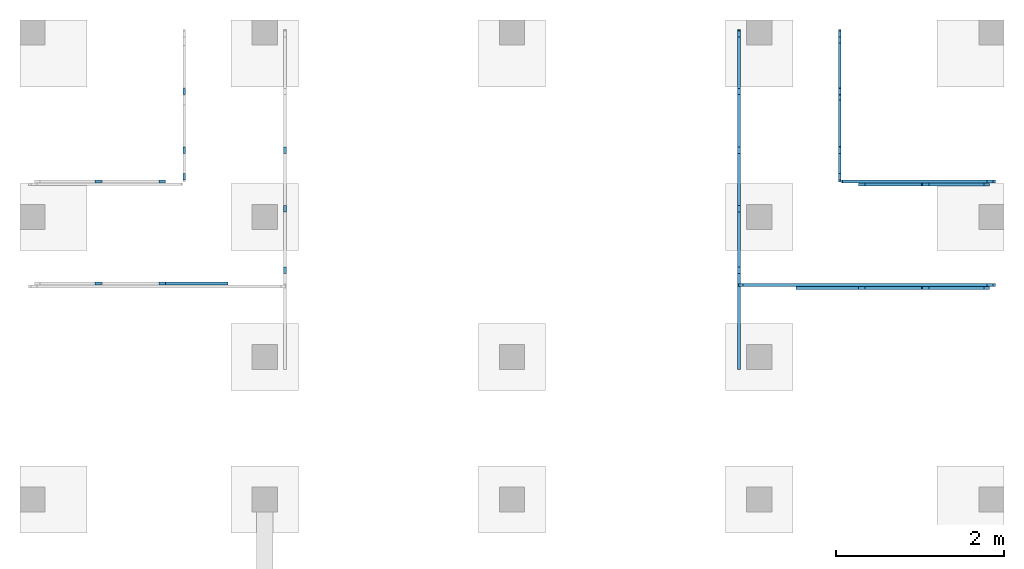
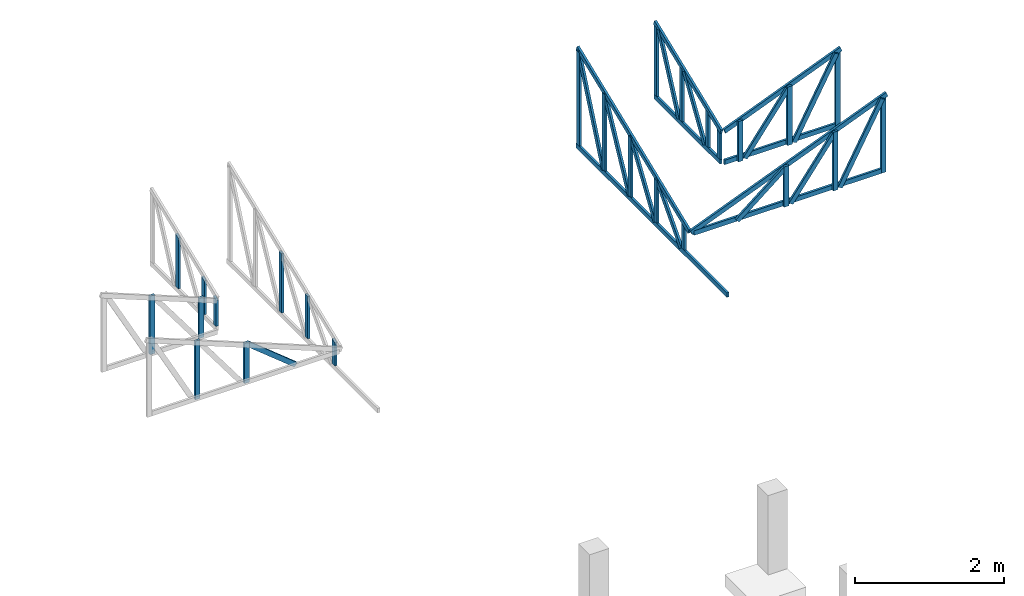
# One storey, part 2 of 2: 45 members, 8 elements without a shape of their own.
"""IFC4X3_ADD2 building model written with IfcOpenShell, lengths in millimetres."""

from ifc_helpers import new_model, entity, si_unit, converted_unit, frame, origin_with_axes, origin_2d_with_axis, place, context, subcontext, project, spatial, rectangle, extrude, clip, halfspace, material, material_profile, profile_set, profile_usage, type_object, element, aggregate, save


model = new_model("IFC4X3_ADD2")

# Units and contexts
model_context = context("Model", 3, precision=1e-05, world=origin_with_axes())
plan_context = context("Plan", 2, precision=1e-05, world=origin_2d_with_axis())
body_context = subcontext(model_context, "Body", "Model", "MODEL_VIEW")
ifc_project = project(units=[si_unit("VOLUMEUNIT", "CUBIC_METRE"), si_unit("LENGTHUNIT", "METRE", prefix="MILLI"), converted_unit("PLANEANGLEUNIT", "degree", entity("IfcReal", 0.0174532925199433), si_unit("PLANEANGLEUNIT", "RADIAN"), dimensions=[0, 0, 0, 0, 0, 0, 0]), si_unit("AREAUNIT", "SQUARE_METRE")], contexts=[model_context, plan_context])

# Site, building, storey
site_placement = place(None, origin_with_axes())
site = spatial("IfcSite", under=ifc_project, at=site_placement, Name="My Site")
building_placement = place(site_placement, origin_with_axes())
building = spatial("IfcBuilding", under=site, at=building_placement, Name="My Building")
storey_placement = place(building_placement, origin_with_axes())
storey = spatial("IfcBuildingStorey", under=building, at=storey_placement, Name="Pondasi")

# Assembly, members
assembly_1_placement = place(storey_placement, frame((3027.53567695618, 5188.17663192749, 6674.02648925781), z_axis=(0.0, 0.0, 1.0), x_axis=(1.0, 0.0, 0.0)))
assembly_1 = element("IfcElementAssembly", 1, at=assembly_1_placement, inside=storey, Name="KK4")
ifc_material = material(Name="Galvanis")
ifc_material_profile = material_profile(ifc_material, rectangle(XDim=35.0, YDim=75.0))
ifc_profile_set = profile_set([ifc_material_profile])
ifc_profile_usage_1 = profile_usage(ifc_profile_set, cardinal=2)
member_type = type_object("IfcMemberType", Name="C75", PredefinedType="MEMBER", material=ifc_profile_set)
member_1_placement = place(assembly_1_placement, frame((-17.5356864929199, -983.174800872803, 8.18347930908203), z_axis=(0.0, 0.0, 1.0), x_axis=(-0.999999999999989, -1.50995802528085e-07, 0.0)))
member_1 = element("IfcMember", 2, at=member_1_placement, type_object=member_type, material=ifc_profile_usage_1, Name="Member.061", context=body_context, shape_type="SweptSolid", body=[
    extrude(rectangle(XDim=35.0, YDim=75.0), frame((0.0, 37.5, 0.0), z_axis=(0.0, 0.0, 1.0), x_axis=(1.0, 0.0, 0.0)), (0.0, 0.0, 1.0), 975.92401613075),
])
ifc_profile_usage_2 = profile_usage(ifc_profile_set, cardinal=2)
member_2_placement = place(assembly_1_placement, frame((-17.5356864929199, -1683.17937850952, 8.18347930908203), z_axis=(0.0, 0.0, 1.0), x_axis=(-0.999999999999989, -1.50995802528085e-07, 0.0)))
member_2 = element("IfcMember", 3, at=member_2_placement, type_object=member_type, material=ifc_profile_usage_2, Name="Member.058", context=body_context, shape_type="SweptSolid", body=[
    extrude(rectangle(XDim=35.0, YDim=75.0), frame((0.0, 37.5, 0.0), z_axis=(0.0, 0.0, 1.0), x_axis=(1.0, 0.0, 0.0)), (0.0, 0.0, 1.0), 696.690084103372),
])
ifc_profile_usage_3 = profile_usage(ifc_profile_set, cardinal=2)
member_3_placement = place(assembly_1_placement, frame((-17.5356864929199, -2416.53060913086, 8.18395614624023), z_axis=(0.0, 0.0, 1.0), x_axis=(-0.999999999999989, -1.50995802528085e-07, 0.0)))
member_3 = element("IfcMember", 4, at=member_3_placement, type_object=member_type, material=ifc_profile_usage_3, Name="Member.058", context=body_context, shape_type="Clipping", body=[
    clip(extrude(rectangle(XDim=35.0, YDim=75.0), frame((0.0, 37.5, 0.0), z_axis=(0.0, 0.0, 1.0), x_axis=(1.0, 0.0, 0.0)), (0.0, 0.0, 1.0), 484.720706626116), halfspace(frame((-0.000369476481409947, -2833.23574066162, 1534.339427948), z_axis=(5.5707754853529e-08, 0.368935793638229, 0.929454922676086), x_axis=(0.999999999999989, -1.50995798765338e-07, 0.0)), False)),
])
aggregate(assembly_1, [member_1, member_2, member_3])

assembly_2_placement = place(storey_placement, frame((1827.50594615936, 5455.30414581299, 7060.82105636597), z_axis=(0.0, 0.0, 1.0), x_axis=(1.0, 0.0, 0.0)))
assembly_2 = element("IfcElementAssembly", 5, at=assembly_2_placement, inside=storey, Name="KK7")
ifc_profile_usage_4 = profile_usage(ifc_profile_set, cardinal=2)
member_4_placement = place(assembly_2_placement, frame((-17.5060033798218, -550.303936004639, 14.1787528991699), z_axis=(-4.35708814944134e-13, 4.06124991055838e-06, 0.999999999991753), x_axis=(-0.999999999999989, -1.50995802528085e-07, 1.77522872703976e-13)))
member_4 = element("IfcMember", 6, at=member_4_placement, type_object=member_type, material=ifc_profile_usage_4, Name="Member.065", context=body_context, shape_type="Clipping", body=[
    clip(extrude(rectangle(XDim=35.0, YDim=75.0), frame((0.0, 37.5, 0.0), z_axis=(0.0, 0.0, 1.0), x_axis=(1.0, 0.0, 0.0)), (0.0, 0.0, 1.0), 938.741688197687), halfspace(frame((-0.000131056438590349, -699.877023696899, 1141.55280590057), z_axis=(5.57079182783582e-08, 0.368939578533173, 0.929453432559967), x_axis=(0.999999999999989, -1.50994692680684e-07, 0.0)), False)),
])
ifc_profile_usage_5 = profile_usage(ifc_profile_set, cardinal=2)
member_5_placement = place(assembly_2_placement, frame((-17.5060033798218, -1250.3023147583, 14.1787528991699), z_axis=(0.0, 0.0, 1.0), x_axis=(-0.999999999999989, -1.50995802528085e-07, 0.0)))
member_5 = element("IfcMember", 7, at=member_5_placement, type_object=member_type, material=ifc_profile_usage_5, Name="Member.061", context=body_context, shape_type="Clipping", body=[
    clip(extrude(rectangle(XDim=35.0, YDim=75.0), frame((0.0, 37.5, 0.0), z_axis=(0.0, 0.0, 1.0), x_axis=(1.0, 0.0, 0.0)), (0.0, 0.0, 1.0), 660.884861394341), halfspace(frame((-0.000250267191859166, -1399.88017082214, 1141.55006408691), z_axis=(5.5707754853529e-08, 0.368935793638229, 0.929454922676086), x_axis=(0.999999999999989, -1.50995798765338e-07, 0.0)), False)),
])
ifc_profile_usage_6 = profile_usage(ifc_profile_set, cardinal=2)
member_6_placement = place(assembly_2_placement, frame((-17.5060033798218, -1568.13335418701, 14.1792297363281), z_axis=(0.0, 0.0, 1.0), x_axis=(-0.999999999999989, -1.50995802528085e-07, 0.0)))
member_6 = element("IfcMember", 8, at=member_6_placement, type_object=member_type, material=ifc_profile_usage_6, Name="Member.061", context=body_context, shape_type="Clipping", body=[
    clip(extrude(rectangle(XDim=35.0, YDim=75.0), frame((0.0, 37.5, 0.0), z_axis=(0.0, 0.0, 1.0), x_axis=(1.0, 0.0, 0.0)), (0.0, 0.0, 1.0), 534.72470892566), halfspace(frame((-0.000250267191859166, -1717.71097183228, 1141.54958724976), z_axis=(5.5707754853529e-08, 0.368935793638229, 0.929454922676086), x_axis=(0.999999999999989, -1.50995798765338e-07, 0.0)), False)),
])
aggregate(assembly_2, [member_4, member_5, member_6])

assembly_3_placement = place(storey_placement, frame((-19.7178199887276, 3742.49935150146, 6997.07698822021), z_axis=(0.0, 0.0, 1.0), x_axis=(1.0, 0.0, 0.0)))
assembly_3 = element("IfcElementAssembly", 9, at=assembly_3_placement, inside=storey, Name="KK10")
ifc_profile_usage_7 = profile_usage(ifc_profile_set, cardinal=8)
member_7_placement = place(assembly_3_placement, frame((766.062147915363, 52.5002479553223, 961.922168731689), z_axis=(8.74227410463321e-08, -3.89414395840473e-07, -0.999999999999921), x_axis=(-7.54979012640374e-08, -0.999999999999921, 3.89414367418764e-07)))
member_7 = element("IfcMember", 10, at=member_7_placement, type_object=member_type, material=ifc_profile_usage_7, Name="Member", context=body_context, shape_type="SweptSolid", body=[
    extrude(rectangle(XDim=35.0, YDim=75.0), frame((0.0, -37.5, 0.0), z_axis=(0.0, 0.0, 1.0), x_axis=(1.0, 0.0, 0.0)), (0.0, 0.0, 1.0), 961.92310929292),
])
ifc_profile_usage_8 = profile_usage(ifc_profile_set, cardinal=8)
member_8_placement = place(assembly_3_placement, frame((1529.02496606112, 52.5002479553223, 662.716388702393), z_axis=(8.74227410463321e-08, -3.89414395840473e-07, -0.999999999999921), x_axis=(-7.54979012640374e-08, -0.999999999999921, 3.89414367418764e-07)))
member_8 = element("IfcMember", 11, at=member_8_placement, type_object=member_type, material=ifc_profile_usage_8, Name="Member", context=body_context, shape_type="SweptSolid", body=[
    extrude(rectangle(XDim=35.0, YDim=75.0), frame((0.0, -37.5, 0.0), z_axis=(0.0, 0.0, 1.0), x_axis=(1.0, 0.0, 0.0)), (0.0, 0.0, 1.0), 662.716859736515),
])
aggregate(assembly_3, [member_7, member_8])

assembly_4_placement = place(storey_placement, frame((-19.7178162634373, 2559.99946594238, 6997.07698822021), z_axis=(0.0, 0.0, 1.0), x_axis=(1.0, 0.0, 0.0)))
assembly_4 = element("IfcElementAssembly", 12, at=assembly_4_placement, inside=storey, Name="KK9")
ifc_profile_usage_9 = profile_usage(ifc_profile_set, cardinal=8)
member_9_placement = place(assembly_4_placement, frame((2304.02529612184, 17.5001621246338, -0.00095367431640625), z_axis=(-0.777644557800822, 3.87085427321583e-07, 0.628704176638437), x_axis=(5.52335052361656e-07, 0.999999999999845, 6.74958258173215e-08)))
member_9 = element("IfcMember", 13, at=member_9_placement, type_object=member_type, material=ifc_profile_usage_9, Name="Member", context=body_context, shape_type="Clipping", body=[
    clip(extrude(rectangle(XDim=35.0, YDim=75.0), frame((0.0, -37.5, 0.0), z_axis=(0.0, 0.0, 1.0), x_axis=(1.0, 0.0, 0.0)), (0.0, 0.0, 1.0), 975.154640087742), halfspace(frame((-3.84387135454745e-05, -75.2655118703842, 961.004436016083), z_axis=(-4.03323468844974e-07, 0.628704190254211, 0.777644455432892), x_axis=(0.999999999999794, 6.41515477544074e-07, 0.0)), False)),
])
ifc_profile_usage_10 = profile_usage(ifc_profile_set, cardinal=8)
member_10_placement = place(assembly_4_placement, frame((766.062144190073, 17.5004005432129, 961.922168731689), z_axis=(8.74227410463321e-08, -3.89414395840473e-07, -0.999999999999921), x_axis=(-7.54979012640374e-08, -0.999999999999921, 3.89414367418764e-07)))
member_10 = element("IfcMember", 14, at=member_10_placement, type_object=member_type, material=ifc_profile_usage_10, Name="Member", context=body_context, shape_type="SweptSolid", body=[
    extrude(rectangle(XDim=35.0, YDim=75.0), frame((0.0, -37.5, 0.0), z_axis=(0.0, 0.0, 1.0), x_axis=(1.0, 0.0, 0.0)), (0.0, 0.0, 1.0), 961.92310929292),
])
ifc_profile_usage_11 = profile_usage(ifc_profile_set, cardinal=8)
member_11_placement = place(assembly_4_placement, frame((1529.02496233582, 17.5004005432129, 662.716388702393), z_axis=(8.74227410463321e-08, -3.89414395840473e-07, -0.999999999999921), x_axis=(-7.54979012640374e-08, -0.999999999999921, 3.89414367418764e-07)))
member_11 = element("IfcMember", 15, at=member_11_placement, type_object=member_type, material=ifc_profile_usage_11, Name="Member", context=body_context, shape_type="SweptSolid", body=[
    extrude(rectangle(XDim=35.0, YDim=75.0), frame((0.0, -37.5, 0.0), z_axis=(0.0, 0.0, 1.0), x_axis=(1.0, 0.0, 0.0)), (0.0, 0.0, 1.0), 662.716859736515),
])
aggregate(assembly_4, [member_9, member_10, member_11])

assembly_5_placement = place(storey_placement, frame((11459.9990844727, 2542.50049591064, 7000.0), z_axis=(0.0, 0.0, 1.0), x_axis=(-0.999999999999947, -3.25841369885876e-07, 0.0)))
assembly_5 = element("IfcElementAssembly", 16, at=assembly_5_placement, inside=storey, Name="KK9")
ifc_profile_usage_12 = profile_usage(ifc_profile_set, cardinal=8)
member_12_placement = place(assembly_5_placement, frame((766.061788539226, 17.500150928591, 961.922168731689), z_axis=(8.74226496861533e-08, -3.894143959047e-07, -0.999999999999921), x_axis=(-3.1391648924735e-07, -0.999999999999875, 3.89414367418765e-07)))
member_12 = element("IfcMember", 17, at=member_12_placement, type_object=member_type, material=ifc_profile_usage_12, Name="Member", context=body_context, shape_type="SweptSolid", body=[
    extrude(rectangle(XDim=35.0, YDim=75.0), frame((0.0, -37.5, 0.0), z_axis=(0.0, 0.0, 1.0), x_axis=(1.0, 0.0, 0.0)), (0.0, 0.0, 1.0), 961.923109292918),
])
ifc_profile_usage_13 = profile_usage(ifc_profile_set, cardinal=8)
member_13_placement = place(assembly_5_placement, frame((1466.06255147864, 17.4999228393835, -0.000476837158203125), z_axis=(-0.596147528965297, 2.14599533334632e-07, 0.802874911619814), x_axis=(3.13916489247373e-07, 0.99999999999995, -3.42008377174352e-08)))
member_13 = element("IfcMember", 18, at=member_13_placement, type_object=member_type, material=ifc_profile_usage_13, Name="Member", context=body_context, shape_type="Clipping", body=[
    clip(extrude(rectangle(XDim=35.0, YDim=75.0), frame((0.0, -37.5, 0.0), z_axis=(0.0, 0.0, 1.0), x_axis=(1.0, 0.0, 0.0)), (0.0, 0.0, 1.0), 1123.39935078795), halfspace(frame((0.000331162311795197, -71.650430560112, 1144.89698410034), z_axis=(1.19248957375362e-08, 0.80287492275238, 0.596147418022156), x_axis=(1.0, -1.48527440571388e-08, 0.0)), False)),
])
ifc_profile_usage_14 = profile_usage(ifc_profile_set, cardinal=8)
member_14_placement = place(assembly_5_placement, frame((1529.02603719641, 17.4999023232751, 662.716388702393), z_axis=(8.74226496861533e-08, -3.894143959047e-07, -0.999999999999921), x_axis=(-3.1391648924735e-07, -0.999999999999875, 3.89414367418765e-07)))
member_14 = element("IfcMember", 19, at=member_14_placement, type_object=member_type, material=ifc_profile_usage_14, Name="Member", context=body_context, shape_type="SweptSolid", body=[
    extrude(rectangle(XDim=35.0, YDim=75.0), frame((0.0, -37.5, 0.0), z_axis=(0.0, 0.0, 1.0), x_axis=(1.0, 0.0, 0.0)), (0.0, 0.0, 1.0), 662.716859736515),
])
ifc_profile_usage_15 = profile_usage(ifc_profile_set, cardinal=8)
member_15_placement = place(assembly_5_placement, frame((700.00076864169, 17.4999340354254, -0.00095367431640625), z_axis=(-0.473434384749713, 2.38127586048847e-07, 0.880829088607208), x_axis=(3.13916489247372e-07, 0.999999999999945, -1.01618724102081e-07)))
member_15 = element("IfcMember", 20, at=member_15_placement, type_object=member_type, material=ifc_profile_usage_15, Name="Member", context=body_context, shape_type="SweptSolid", body=[
    extrude(rectangle(XDim=35.0, YDim=75.0), frame((0.0, -37.5, 0.0), z_axis=(0.0, 0.0, 1.0), x_axis=(1.0, 0.0, 0.0)), (0.0, 0.0, 1.0), 1391.96335757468),
])
ifc_profile_usage_16 = profile_usage(ifc_profile_set, cardinal=8)
member_16_placement = place(assembly_5_placement, frame((-5.7020468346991e-06, -17.4994468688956, 1296.60892486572), z_axis=(8.74226496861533e-08, -3.894143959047e-07, -0.999999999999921), x_axis=(-3.1391648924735e-07, -0.999999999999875, 3.89414367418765e-07)))
member_16 = element("IfcMember", 21, at=member_16_placement, type_object=member_type, material=ifc_profile_usage_16, Name="Member", context=body_context, shape_type="Clipping", body=[
    clip(extrude(rectangle(XDim=35.0, YDim=75.0), frame((0.0, -37.5, 0.0), z_axis=(0.0, 0.0, 1.0), x_axis=(1.0, 0.0, 0.0)), (0.0, 0.0, 1.0), 1296.60798966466), halfspace(frame((-0.000466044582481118, -3009.16814804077, 1275.36702156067), z_axis=(3.0651250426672e-07, -0.370512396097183, -0.928827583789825), x_axis=(-0.999999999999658, -8.2726653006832e-07, 0.0)), False)),
])
ifc_profile_usage_17 = profile_usage(ifc_profile_set, cardinal=8)
member_17_placement = place(assembly_5_placement, frame((3036.95678140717, -17.5004364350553, 90.9032821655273), z_axis=(-0.92882754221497, 3.98628755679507e-07, 0.370512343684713), x_axis=(-4.01339271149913e-07, -0.999999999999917, 6.9778486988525e-08)))
member_17 = element("IfcMember", 22, at=member_17_placement, type_object=member_type, material=ifc_profile_usage_17, Name="Member", context=body_context, shape_type="SweptSolid", body=[
    extrude(rectangle(XDim=35.0, YDim=75.0), frame((0.0, -37.5, 0.0), z_axis=(0.0, 0.0, 1.0), x_axis=(1.0, 0.0, 0.0)), (0.0, 0.0, 1.0), 3269.66682617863),
])
ifc_profile_usage_18 = profile_usage(ifc_profile_set, cardinal=2)
member_18_placement = place(assembly_5_placement, frame((75.0007572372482, -17.4999481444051, -0.00095367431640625), z_axis=(0.999999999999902, -3.13916414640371e-07, 3.13916473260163e-07), x_axis=(3.13916489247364e-07, 0.999999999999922, -2.38418564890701e-07)))
member_18 = element("IfcMember", 23, at=member_18_placement, type_object=member_type, material=ifc_profile_usage_18, Name="Member", context=body_context, shape_type="SweptSolid", body=[
    extrude(rectangle(XDim=35.0, YDim=75.0), frame((0.0, 37.5, 0.0), z_axis=(0.0, 0.0, 1.0), x_axis=(1.0, 0.0, 0.0)), (0.0, 0.0, 1.0), 2907.815983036),
])
ifc_profile_usage_19 = profile_usage(ifc_profile_set, cardinal=8)
member_19_placement = place(assembly_5_placement, frame((2304.02565572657, 17.4994113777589, -0.00095367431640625), z_axis=(-0.777644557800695, 5.7249034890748e-07, 0.628704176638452), x_axis=(7.90753659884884e-07, 0.999999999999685, 6.74958258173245e-08)))
member_19 = element("IfcMember", 24, at=member_19_placement, type_object=member_type, material=ifc_profile_usage_19, Name="Member", context=body_context, shape_type="Clipping", body=[
    clip(extrude(rectangle(XDim=35.0, YDim=75.0), frame((0.0, -37.5, 0.0), z_axis=(0.0, 0.0, 1.0), x_axis=(1.0, 0.0, 0.0)), (0.0, 0.0, 1.0), 975.153906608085), halfspace(frame((0.000226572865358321, -75.2654150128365, 961.005330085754), z_axis=(-4.6491226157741e-07, 0.628704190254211, 0.777644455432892), x_axis=(0.999999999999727, 7.39476957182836e-07, 0.0)), False)),
])
aggregate(assembly_5, [member_12, member_13, member_14, member_15, member_16, member_17, member_18, member_19])

assembly_6_placement = place(storey_placement, frame((11460.0009918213, 3808.12501907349, 6997.07698822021), z_axis=(0.0, 0.0, 1.0), x_axis=(-0.999999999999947, -3.25841369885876e-07, 0.0)))
assembly_6 = element("IfcElementAssembly", 25, at=assembly_6_placement, inside=storey, Name="KK10")
ifc_profile_usage_20 = profile_usage(ifc_profile_set, cardinal=8)
member_20_placement = place(assembly_6_placement, frame((1806.61964986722, 17.4995734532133, 581.689357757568), z_axis=(-0.92882754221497, 3.98628755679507e-07, 0.370512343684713), x_axis=(-4.01339271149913e-07, -0.999999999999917, 6.9778486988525e-08)))
member_20 = element("IfcMember", 26, at=member_20_placement, type_object=member_type, material=ifc_profile_usage_20, Name="Member", context=body_context, shape_type="SweptSolid", body=[
    extrude(rectangle(XDim=35.0, YDim=75.0), frame((0.0, -37.5, 0.0), z_axis=(0.0, 0.0, 1.0), x_axis=(1.0, 0.0, 0.0)), (0.0, 0.0, 1.0), 1945.05302200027),
])
ifc_profile_usage_21 = profile_usage(ifc_profile_set, cardinal=2)
member_21_placement = place(assembly_6_placement, frame((75.0007686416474, 17.4998992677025, -0.00095367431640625), z_axis=(0.999999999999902, -3.13916414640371e-07, 3.13916473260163e-07), x_axis=(3.13916489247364e-07, 0.999999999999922, -2.38418564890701e-07)))
member_21 = element("IfcMember", 27, at=member_21_placement, type_object=member_type, material=ifc_profile_usage_21, Name="Member", context=body_context, shape_type="SweptSolid", body=[
    extrude(rectangle(XDim=35.0, YDim=75.0), frame((0.0, 37.5, 0.0), z_axis=(0.0, 0.0, 1.0), x_axis=(1.0, 0.0, 0.0)), (0.0, 0.0, 1.0), 1719.6273645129),
])
ifc_profile_usage_22 = profile_usage(ifc_profile_set, cardinal=8)
member_22_placement = place(assembly_6_placement, frame((1466.06256288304, 52.4997702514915, -0.000476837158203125), z_axis=(-0.596147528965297, 2.14599533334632e-07, 0.802874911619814), x_axis=(3.13916489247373e-07, 0.99999999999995, -3.42008377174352e-08)))
member_22 = element("IfcMember", 28, at=member_22_placement, type_object=member_type, material=ifc_profile_usage_22, Name="Member", context=body_context, shape_type="Clipping", body=[
    clip(extrude(rectangle(XDim=35.0, YDim=75.0), frame((0.0, -37.5, 0.0), z_axis=(0.0, 0.0, 1.0), x_axis=(1.0, 0.0, 0.0)), (0.0, 0.0, 1.0), 1123.39629998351), halfspace(frame((0.000331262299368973, -71.6518238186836, 1144.89448070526), z_axis=(1.19248957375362e-08, 0.80287492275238, 0.596147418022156), x_axis=(1.0, -1.48527440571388e-08, 0.0)), False)),
])
ifc_profile_usage_23 = profile_usage(ifc_profile_set, cardinal=8)
member_23_placement = place(assembly_6_placement, frame((766.063707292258, 52.4999983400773, 961.922168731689), z_axis=(8.74226496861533e-08, -3.894143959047e-07, -0.999999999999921), x_axis=(-3.1391648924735e-07, -0.999999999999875, 3.89414367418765e-07)))
member_23 = element("IfcMember", 29, at=member_23_placement, type_object=member_type, material=ifc_profile_usage_23, Name="Member", context=body_context, shape_type="SweptSolid", body=[
    extrude(rectangle(XDim=35.0, YDim=75.0), frame((0.0, -37.5, 0.0), z_axis=(0.0, 0.0, 1.0), x_axis=(1.0, 0.0, 0.0)), (0.0, 0.0, 1.0), 961.923109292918),
])
ifc_profile_usage_24 = profile_usage(ifc_profile_set, cardinal=8)
member_24_placement = place(assembly_6_placement, frame((1529.02604860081, 52.4997497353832, 662.716388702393), z_axis=(8.74226496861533e-08, -3.894143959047e-07, -0.999999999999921), x_axis=(-3.1391648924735e-07, -0.999999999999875, 3.89414367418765e-07)))
member_24 = element("IfcMember", 30, at=member_24_placement, type_object=member_type, material=ifc_profile_usage_24, Name="Member", context=body_context, shape_type="SweptSolid", body=[
    extrude(rectangle(XDim=35.0, YDim=75.0), frame((0.0, -37.5, 0.0), z_axis=(0.0, 0.0, 1.0), x_axis=(1.0, 0.0, 0.0)), (0.0, 0.0, 1.0), 662.716859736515),
])
ifc_profile_usage_25 = profile_usage(ifc_profile_set, cardinal=8)
member_25_placement = place(assembly_6_placement, frame((700.000780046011, 52.4995430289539, -0.00095367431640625), z_axis=(-0.473434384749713, 2.38127586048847e-07, 0.880829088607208), x_axis=(3.13916489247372e-07, 0.999999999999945, -1.01618724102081e-07)))
member_25 = element("IfcMember", 31, at=member_25_placement, type_object=member_type, material=ifc_profile_usage_25, Name="Member", context=body_context, shape_type="SweptSolid", body=[
    extrude(rectangle(XDim=35.0, YDim=75.0), frame((0.0, -37.5, 0.0), z_axis=(0.0, 0.0, 1.0), x_axis=(1.0, 0.0, 0.0)), (0.0, 0.0, 1.0), 1391.96335757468),
])
ifc_profile_usage_26 = profile_usage(ifc_profile_set, cardinal=8)
member_26_placement = place(assembly_6_placement, frame((5.70235236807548e-06, 17.500400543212, 1296.60892486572), z_axis=(8.74226496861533e-08, -3.894143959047e-07, -0.999999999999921), x_axis=(-3.1391648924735e-07, -0.999999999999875, 3.89414367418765e-07)))
member_26 = element("IfcMember", 32, at=member_26_placement, type_object=member_type, material=ifc_profile_usage_26, Name="Member", context=body_context, shape_type="Clipping", body=[
    clip(extrude(rectangle(XDim=35.0, YDim=75.0), frame((0.0, -37.5, 0.0), z_axis=(0.0, 0.0, 1.0), x_axis=(1.0, 0.0, 0.0)), (0.0, 0.0, 1.0), 1296.60890905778), halfspace(frame((-5.23167145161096e-05, -1778.83112430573, 784.581363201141), z_axis=(3.0651250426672e-07, -0.370512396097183, -0.928827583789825), x_axis=(-0.999999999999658, -8.2726653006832e-07, 0.0)), False)),
])
aggregate(assembly_6, [member_20, member_21, member_22, member_23, member_24, member_25, member_26])

assembly_7_placement = place(storey_placement, frame((8447.53551483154, 5188.17663192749, 6674.02648925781), z_axis=(0.0, 0.0, 1.0), x_axis=(1.0, 0.0, 0.0)))
assembly_7 = element("IfcElementAssembly", 33, at=assembly_7_placement, inside=storey, Name="KK4")
ifc_profile_usage_27 = profile_usage(ifc_profile_set, cardinal=2)
member_27_placement = place(assembly_7_placement, frame((-17.5352096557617, 401.823043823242, 8.18347930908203), z_axis=(0.0, 0.0, 1.0), x_axis=(-0.999999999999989, -1.50995802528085e-07, 0.0)))
member_27 = element("IfcMember", 34, at=member_27_placement, type_object=member_type, material=ifc_profile_usage_27, Name="Member.054", context=body_context, shape_type="SweptSolid", body=[
    extrude(rectangle(XDim=35.0, YDim=75.0), frame((0.0, 37.5, 0.0), z_axis=(0.0, 0.0, 1.0), x_axis=(1.0, 0.0, 0.0)), (0.0, 0.0, 1.0), 1534.38760476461),
])
ifc_profile_usage_28 = profile_usage(ifc_profile_set, cardinal=2)
member_28_placement = place(assembly_7_placement, frame((-17.5352096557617, -283.177852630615, 8.18347930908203), z_axis=(-4.35708814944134e-13, 4.06124991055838e-06, 0.999999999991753), x_axis=(-0.999999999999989, -1.50995802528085e-07, 1.77522872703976e-13)))
member_28 = element("IfcMember", 35, at=member_28_placement, type_object=member_type, material=ifc_profile_usage_28, Name="Member.065", context=body_context, shape_type="SweptSolid", body=[
    extrude(rectangle(XDim=35.0, YDim=75.0), frame((0.0, 37.5, 0.0), z_axis=(0.0, 0.0, 1.0), x_axis=(1.0, 0.0, 0.0)), (0.0, 0.0, 1.0), 1255.1569895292),
])
ifc_profile_usage_29 = profile_usage(ifc_profile_set, cardinal=2)
member_29_placement = place(assembly_7_placement, frame((-17.5352096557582, -2360.83436012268, -42.0446395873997), z_axis=(-5.76451710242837e-08, 0.669715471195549, 0.742617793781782), x_axis=(-0.999999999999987, -1.50995802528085e-07, 5.85483554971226e-08)))
member_29 = element("IfcMember", 36, at=member_29_placement, type_object=member_type, material=ifc_profile_usage_29, Name="Member.056", context=body_context, shape_type="SweptSolid", body=[
    extrude(rectangle(XDim=35.0, YDim=75.0), frame((0.0, 37.5, 0.0), z_axis=(0.0, 0.0, 1.0), x_axis=(1.0, 0.0, 0.0)), (0.0, 0.0, 1.0), 1002.38325319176),
])
ifc_profile_usage_30 = profile_usage(ifc_profile_set, cardinal=2)
member_30_placement = place(assembly_7_placement, frame((-17.5352096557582, -1660.92586517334, -33.2698822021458), z_axis=(-4.31898773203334e-08, 0.552720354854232, 0.83336679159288), x_axis=(-0.999999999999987, -1.50995802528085e-07, 4.83203450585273e-08)))
member_30 = element("IfcMember", 37, at=member_30_placement, type_object=member_type, material=ifc_profile_usage_30, Name="Member.064", context=body_context, shape_type="SweptSolid", body=[
    extrude(rectangle(XDim=35.0, YDim=75.0), frame((0.0, 37.5, 0.0), z_axis=(0.0, 0.0, 1.0), x_axis=(1.0, 0.0, 0.0)), (0.0, 0.0, 1.0), 1218.86084125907),
])
ifc_profile_usage_31 = profile_usage(ifc_profile_set, cardinal=2)
member_31_placement = place(assembly_7_placement, frame((-17.5352096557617, -2416.53060913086, 8.18395614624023), z_axis=(0.0, 0.0, 1.0), x_axis=(-0.999999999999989, -1.50995802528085e-07, 0.0)))
member_31 = element("IfcMember", 38, at=member_31_placement, type_object=member_type, material=ifc_profile_usage_31, Name="Member.058", context=body_context, shape_type="Clipping", body=[
    clip(extrude(rectangle(XDim=35.0, YDim=75.0), frame((0.0, 37.5, 0.0), z_axis=(0.0, 0.0, 1.0), x_axis=(1.0, 0.0, 0.0)), (0.0, 0.0, 1.0), 484.720706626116), halfspace(frame((-0.000846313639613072, -2833.23574066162, 1534.339427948), z_axis=(5.5707754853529e-08, 0.368935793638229, 0.929454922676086), x_axis=(0.999999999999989, -1.50995798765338e-07, 0.0)), False)),
])
ifc_profile_usage_32 = profile_usage(ifc_profile_set, cardinal=2)
member_32_placement = place(assembly_7_placement, frame((-17.5352096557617, 416.822910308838, -66.8163299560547), z_axis=(0.0, -0.999999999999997, 7.54979012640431e-08), x_axis=(1.0, 0.0, 0.0)))
member_32 = element("IfcMember", 39, at=member_32_placement, type_object=member_type, material=ifc_profile_usage_32, Name="Member.052", context=body_context, shape_type="SweptSolid", body=[
    extrude(rectangle(XDim=35.0, YDim=75.0), frame((0.0, 37.5, 0.0), z_axis=(0.0, 0.0, 1.0), x_axis=(1.0, 0.0, 0.0)), (0.0, 0.0, 1.0), 4054.998896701),
])
ifc_profile_usage_33 = profile_usage(ifc_profile_set, cardinal=2)
member_33_placement = place(assembly_7_placement, frame((-17.5352096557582, -263.592720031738, -21.6598510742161), z_axis=(-2.81693883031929e-08, 0.397916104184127, 0.917421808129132), x_axis=(-0.999999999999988, -1.50995802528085e-07, 3.47869146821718e-08)))
member_33 = element("IfcMember", 40, at=member_33_placement, type_object=member_type, material=ifc_profile_usage_33, Name="Member.060", context=body_context, shape_type="SweptSolid", body=[
    extrude(rectangle(XDim=35.0, YDim=75.0), frame((0.0, 37.5, 0.0), z_axis=(0.0, 0.0, 1.0), x_axis=(1.0, 0.0, 0.0)), (0.0, 0.0, 1.0), 1704.00113135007),
])
ifc_profile_usage_34 = profile_usage(ifc_profile_set, cardinal=2)
member_34_placement = place(assembly_7_placement, frame((-17.5352096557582, -962.112426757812, -26.6523361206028), z_axis=(-3.41735422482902e-08, 0.464471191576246, 0.885588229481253), x_axis=(-0.999999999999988, -1.50995802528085e-07, 4.06053892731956e-08)))
member_34 = element("IfcMember", 41, at=member_34_placement, type_object=member_type, material=ifc_profile_usage_34, Name="Member.057", context=body_context, shape_type="SweptSolid", body=[
    extrude(rectangle(XDim=35.0, YDim=75.0), frame((0.0, 37.5, 0.0), z_axis=(0.0, 0.0, 1.0), x_axis=(1.0, 0.0, 0.0)), (0.0, 0.0, 1.0), 1455.30195114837),
])
ifc_profile_usage_35 = profile_usage(ifc_profile_set, cardinal=2)
member_35_placement = place(assembly_7_placement, frame((-17.5352096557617, -983.174800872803, 8.18347930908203), z_axis=(0.0, 0.0, 1.0), x_axis=(-0.999999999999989, -1.50995802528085e-07, 0.0)))
member_35 = element("IfcMember", 42, at=member_35_placement, type_object=member_type, material=ifc_profile_usage_35, Name="Member.061", context=body_context, shape_type="SweptSolid", body=[
    extrude(rectangle(XDim=35.0, YDim=75.0), frame((0.0, 37.5, 0.0), z_axis=(0.0, 0.0, 1.0), x_axis=(1.0, 0.0, 0.0)), (0.0, 0.0, 1.0), 975.92401613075),
])
ifc_profile_usage_36 = profile_usage(ifc_profile_set, cardinal=2)
member_36_placement = place(assembly_7_placement, frame((-17.5352096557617, -1683.17937850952, 8.18347930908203), z_axis=(0.0, 0.0, 1.0), x_axis=(-0.999999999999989, -1.50995802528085e-07, 0.0)))
member_36 = element("IfcMember", 43, at=member_36_placement, type_object=member_type, material=ifc_profile_usage_36, Name="Member.058", context=body_context, shape_type="SweptSolid", body=[
    extrude(rectangle(XDim=35.0, YDim=75.0), frame((0.0, 37.5, 0.0), z_axis=(0.0, 0.0, 1.0), x_axis=(1.0, 0.0, 0.0)), (0.0, 0.0, 1.0), 696.690084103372),
])
ifc_profile_usage_37 = profile_usage(ifc_profile_set, cardinal=8)
member_37_placement = place(assembly_7_placement, frame((-17.5352096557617, 389.034748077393, 1612.23220825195), z_axis=(0.0, -0.92945487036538, -0.368935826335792), x_axis=(1.0, 0.0, 0.0)))
member_37 = element("IfcMember", 44, at=member_37_placement, type_object=member_type, material=ifc_profile_usage_37, Name="Member.063", context=body_context, shape_type="SweptSolid", body=[
    extrude(rectangle(XDim=35.0, YDim=75.0), frame((0.0, -37.5, 0.0), z_axis=(0.0, 0.0, 1.0), x_axis=(1.0, 0.0, 0.0)), (0.0, 0.0, 1.0), 3235.31790363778),
])
aggregate(assembly_7, [member_27, member_28, member_29, member_30, member_31, member_32, member_33, member_34, member_35, member_36, member_37])

assembly_8_placement = place(storey_placement, frame((9647.50576019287, 5455.30414581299, 7060.82105636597), z_axis=(0.0, 0.0, 1.0), x_axis=(1.0, 0.0, 0.0)))
assembly_8 = element("IfcElementAssembly", 45, at=assembly_8_placement, inside=storey, Name="KK7")
ifc_profile_usage_38 = profile_usage(ifc_profile_set, cardinal=2)
member_38_placement = place(assembly_8_placement, frame((-17.5065994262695, -480.384349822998, -16.1666870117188), z_axis=(-2.87191390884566e-08, 0.42940470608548, 0.903112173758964), x_axis=(-0.999999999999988, -1.50995802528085e-07, 3.99941129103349e-08)))
member_38 = element("IfcMember", 46, at=member_38_placement, type_object=member_type, material=ifc_profile_usage_38, Name="Member.060", context=body_context, shape_type="SweptSolid", body=[
    extrude(rectangle(XDim=35.0, YDim=75.0), frame((0.0, 37.5, 0.0), z_axis=(0.0, 0.0, 1.0), x_axis=(1.0, 0.0, 0.0)), (0.0, 0.0, 1.0), 1258.20114813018),
])
ifc_profile_usage_39 = profile_usage(ifc_profile_set, cardinal=2)
member_39_placement = place(assembly_8_placement, frame((-17.5065994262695, -1250.3023147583, 14.1787528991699), z_axis=(0.0, 0.0, 1.0), x_axis=(-0.999999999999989, -1.50995802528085e-07, 0.0)))
member_39 = element("IfcMember", 47, at=member_39_placement, type_object=member_type, material=ifc_profile_usage_39, Name="Member.061", context=body_context, shape_type="SweptSolid", body=[
    extrude(rectangle(XDim=35.0, YDim=75.0), frame((0.0, 37.5, 0.0), z_axis=(0.0, 0.0, 1.0), x_axis=(1.0, 0.0, 0.0)), (0.0, 0.0, 1.0), 585.885058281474),
])
ifc_profile_usage_40 = profile_usage(ifc_profile_set, cardinal=8)
member_40_placement = place(assembly_8_placement, frame((-17.5065994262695, 121.907234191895, 1225.4376411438), z_axis=(0.0, -0.92945487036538, -0.368935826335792), x_axis=(1.0, 0.0, 0.0)))
member_40 = element("IfcMember", 48, at=member_40_placement, type_object=member_type, material=ifc_profile_usage_40, Name="Member.063", context=body_context, shape_type="SweptSolid", body=[
    extrude(rectangle(XDim=35.0, YDim=75.0), frame((0.0, -37.5, 0.0), z_axis=(0.0, 0.0, 1.0), x_axis=(1.0, 0.0, 0.0)), (0.0, 0.0, 1.0), 1928.28270129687),
])
ifc_profile_usage_41 = profile_usage(ifc_profile_set, cardinal=2)
member_41_placement = place(assembly_8_placement, frame((-17.5065994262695, 134.695529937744, -60.8210563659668), z_axis=(0.0, -0.999999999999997, 7.54979012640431e-08), x_axis=(1.0, 0.0, 0.0)))
member_41 = element("IfcMember", 49, at=member_41_placement, type_object=member_type, material=ifc_profile_usage_41, Name="Member.052", context=body_context, shape_type="SweptSolid", body=[
    extrude(rectangle(XDim=35.0, YDim=75.0), frame((0.0, 37.5, 0.0), z_axis=(0.0, 0.0, 1.0), x_axis=(1.0, 0.0, 0.0)), (0.0, 0.0, 1.0), 1777.82867858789),
])
ifc_profile_usage_42 = profile_usage(ifc_profile_set, cardinal=2)
member_42_placement = place(assembly_8_placement, frame((-17.5065994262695, -1568.13335418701, 14.1792297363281), z_axis=(0.0, 0.0, 1.0), x_axis=(-0.999999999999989, -1.50995802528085e-07, 0.0)))
member_42 = element("IfcMember", 50, at=member_42_placement, type_object=member_type, material=ifc_profile_usage_42, Name="Member.061", context=body_context, shape_type="Clipping", body=[
    clip(extrude(rectangle(XDim=35.0, YDim=75.0), frame((0.0, 37.5, 0.0), z_axis=(0.0, 0.0, 1.0), x_axis=(1.0, 0.0, 0.0)), (0.0, 0.0, 1.0), 534.72470892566), halfspace(frame((0.000107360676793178, -1717.71097183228, 1141.54958724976), z_axis=(5.5707754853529e-08, 0.368935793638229, 0.929454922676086), x_axis=(0.999999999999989, -1.50995798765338e-07, 0.0)), False)),
])
ifc_profile_usage_43 = profile_usage(ifc_profile_set, cardinal=2)
member_43_placement = place(assembly_8_placement, frame((-17.5065994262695, 134.695529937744, 14.1787528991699), z_axis=(0.0, 0.0, 1.0), x_axis=(-0.999999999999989, -1.50995802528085e-07, 0.0)))
member_43 = element("IfcMember", 51, at=member_43_placement, type_object=member_type, material=ifc_profile_usage_43, Name="Member.054", context=body_context, shape_type="SweptSolid", body=[
    extrude(rectangle(XDim=35.0, YDim=75.0), frame((0.0, 37.5, 0.0), z_axis=(0.0, 0.0, 1.0), x_axis=(1.0, 0.0, 0.0)), (0.0, 0.0, 1.0), 1135.64299447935),
])
ifc_profile_usage_44 = profile_usage(ifc_profile_set, cardinal=2)
member_44_placement = place(assembly_8_placement, frame((-17.5065994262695, -550.303936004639, 14.1787528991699), z_axis=(-4.35708814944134e-13, 4.06124991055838e-06, 0.999999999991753), x_axis=(-0.999999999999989, -1.50995802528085e-07, 1.77522872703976e-13)))
member_44 = element("IfcMember", 52, at=member_44_placement, type_object=member_type, material=ifc_profile_usage_44, Name="Member.065", context=body_context, shape_type="SweptSolid", body=[
    extrude(rectangle(XDim=35.0, YDim=75.0), frame((0.0, 37.5, 0.0), z_axis=(0.0, 0.0, 1.0), x_axis=(1.0, 0.0, 0.0)), (0.0, 0.0, 1.0), 863.741859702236),
])
ifc_profile_usage_45 = profile_usage(ifc_profile_set, cardinal=2)
member_45_placement = place(assembly_8_placement, frame((-17.5065994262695, -1181.29110336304, -22.1586227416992), z_axis=(-3.62903763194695e-08, 0.537160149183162, 0.8434802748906), x_axis=(-0.999999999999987, -1.50995802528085e-07, 5.3135266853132e-08)))
member_45 = element("IfcMember", 53, at=member_45_placement, type_object=member_type, material=ifc_profile_usage_45, Name="Member.057", context=body_context, shape_type="SweptSolid", body=[
    extrude(rectangle(XDim=35.0, YDim=75.0), frame((0.0, 37.5, 0.0), z_axis=(0.0, 0.0, 1.0), x_axis=(1.0, 0.0, 0.0)), (0.0, 0.0, 1.0), 1030.70861882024),
])
aggregate(assembly_8, [member_38, member_39, member_40, member_41, member_42, member_43, member_44, member_45])

save(model, "model.ifc")
